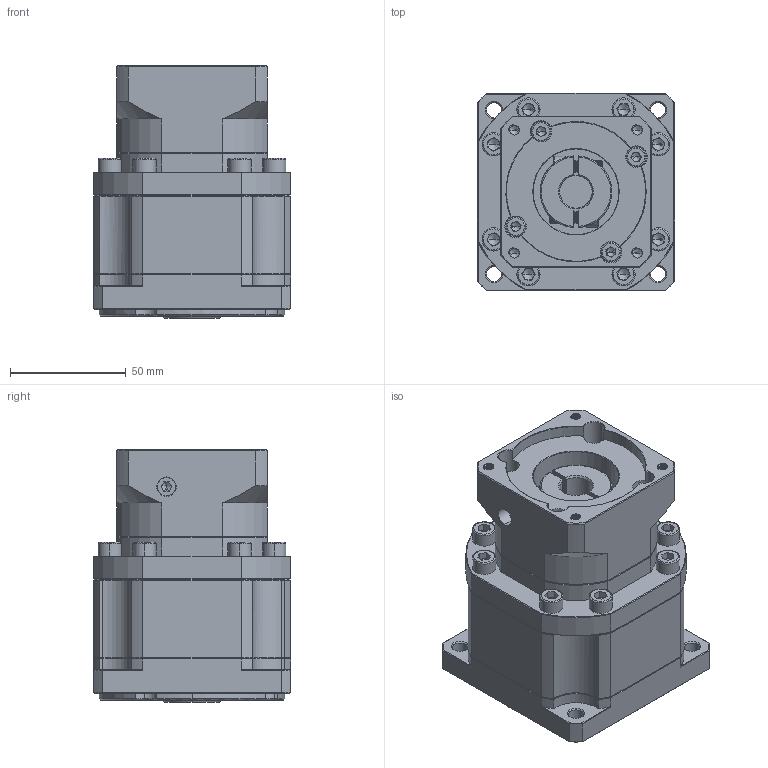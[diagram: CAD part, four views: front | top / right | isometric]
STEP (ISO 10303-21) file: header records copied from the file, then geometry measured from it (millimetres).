
FILE_DESCRIPTION (( 'STEP AP214' ), '1' );
FILE_NAME ('ZB90-K15-L2-14-60-75-M5.STEP', '2022-05-02T15:27:20', ( '' ), ( 'Microsoft' ), 'SwSTEP 2.0', 'SolidWorks 2016', '' );
FILE_SCHEMA (( 'AUTOMOTIVE_DESIGN' ));
Length unit declared in the file: millimetre
Products named in the file (1): ZB90-K15-L2-14-60-75-M5
Bounding box: 85 x 85 x 109 mm (x, y, z)
Volume: 521280.9 mm3; surface area: 74787.6 mm2
Topology: 6 solids, 6 shells, 2041 faces, 5364 edges, 3409 vertices
Faces by surface type: plane 998, cylinder 382, cone 321, bspline 318, torus 22
Entity records: 104308 total; most frequent: CARTESIAN_POINT 33977, ORIENTED_EDGE 10640, DIRECTION 8862, EDGE_CURVE 5320, VERTEX_POINT 3409, VECTOR 3286, LINE 3286, AXIS2_PLACEMENT_3D 2788
